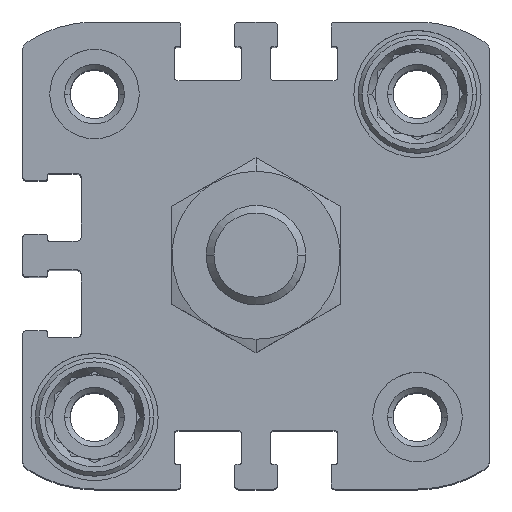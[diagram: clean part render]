
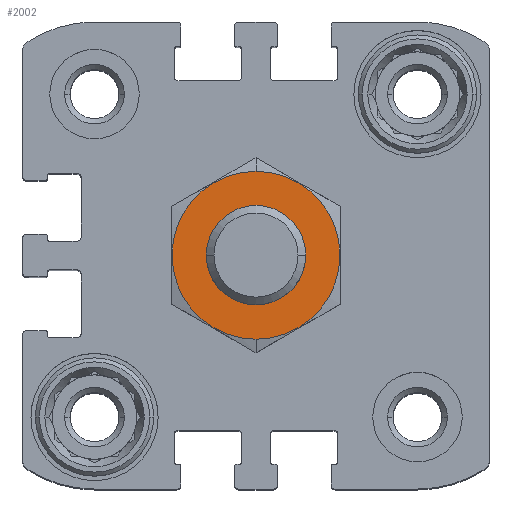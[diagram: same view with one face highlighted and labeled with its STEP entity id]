
A CAD part, top view. The second image highlights one B-rep face of the part: STEP entity #2002.
In plain terms, the highlighted planar face has unit normal (0, 0, 1).
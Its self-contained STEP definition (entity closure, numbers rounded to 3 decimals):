
#693 = AXIS2_PLACEMENT_3D ( 'NONE', #10803, #1397, #9158 ) ;
#869 = CARTESIAN_POINT ( 'NONE',  ( 0., 5., 15.75 ) ) ;
#1397 = DIRECTION ( 'NONE',  ( 0., 0., -1. ) ) ;
#1454 = EDGE_CURVE ( 'NONE', #9110, #5083, #13893, .T. ) ;
#1488 = EDGE_LOOP ( 'NONE', ( #15945, #6079 ) ) ;
#1782 = AXIS2_PLACEMENT_3D ( 'NONE', #15311, #12514, #5927 ) ;
#2002 = ADVANCED_FACE ( 'NONE', ( #13133, #2589 ), #9439, .F. ) ;
#2230 = EDGE_LOOP ( 'NONE', ( #15190, #7640 ) ) ;
#2589 = FACE_BOUND ( 'NONE', #2230, .T. ) ;
#2669 = DIRECTION ( 'NONE',  ( 0., 0., -1. ) ) ;
#2841 = CARTESIAN_POINT ( 'NONE',  ( 0., 8.45, 15.75 ) ) ;
#3805 = CARTESIAN_POINT ( 'NONE',  ( 0., -5., 15.75 ) ) ;
#3808 = CARTESIAN_POINT ( 'NONE',  ( 0., 0., 15.75 ) ) ;
#4215 = CARTESIAN_POINT ( 'NONE',  ( 0., 0., 15.75 ) ) ;
#5083 = VERTEX_POINT ( 'NONE', #3805 ) ;
#5927 = DIRECTION ( 'NONE',  ( 0., 1., 0. ) ) ;
#6079 = ORIENTED_EDGE ( 'NONE', *, *, #12133, .F. ) ;
#6380 = VERTEX_POINT ( 'NONE', #2841 ) ;
#6682 = CIRCLE ( 'NONE', #7249, 5. ) ;
#6746 = EDGE_CURVE ( 'NONE', #5083, #9110, #6682, .T. ) ;
#7249 = AXIS2_PLACEMENT_3D ( 'NONE', #3808, #7679, #10482 ) ;
#7640 = ORIENTED_EDGE ( 'NONE', *, *, #1454, .T. ) ;
#7679 = DIRECTION ( 'NONE',  ( 0., 0., -1. ) ) ;
#8561 = CIRCLE ( 'NONE', #693, 8.45 ) ;
#9110 = VERTEX_POINT ( 'NONE', #869 ) ;
#9158 = DIRECTION ( 'NONE',  ( 0., 1., 0. ) ) ;
#9439 = PLANE ( 'NONE',  #14255 ) ;
#9755 = DIRECTION ( 'NONE',  ( 0., 1., 0. ) ) ;
#10482 = DIRECTION ( 'NONE',  ( 0., 1., 0. ) ) ;
#10803 = CARTESIAN_POINT ( 'NONE',  ( 0., 0., 15.75 ) ) ;
#11404 = AXIS2_PLACEMENT_3D ( 'NONE', #4215, #13794, #9755 ) ;
#12133 = EDGE_CURVE ( 'NONE', #14794, #6380, #16928, .T. ) ;
#12514 = DIRECTION ( 'NONE',  ( 0., 0., -1. ) ) ;
#13133 = FACE_OUTER_BOUND ( 'NONE', #1488, .T. ) ;
#13560 = CARTESIAN_POINT ( 'NONE',  ( 0., -8.45, 15.75 ) ) ;
#13794 = DIRECTION ( 'NONE',  ( 0., 0., -1. ) ) ;
#13893 = CIRCLE ( 'NONE', #11404, 5. ) ;
#14255 = AXIS2_PLACEMENT_3D ( 'NONE', #14705, #2669, #17246 ) ;
#14705 = CARTESIAN_POINT ( 'NONE',  ( 0., 0., 15.75 ) ) ;
#14794 = VERTEX_POINT ( 'NONE', #13560 ) ;
#15190 = ORIENTED_EDGE ( 'NONE', *, *, #6746, .T. ) ;
#15311 = CARTESIAN_POINT ( 'NONE',  ( 0., 0., 15.75 ) ) ;
#15945 = ORIENTED_EDGE ( 'NONE', *, *, #16706, .F. ) ;
#16706 = EDGE_CURVE ( 'NONE', #6380, #14794, #8561, .T. ) ;
#16928 = CIRCLE ( 'NONE', #1782, 8.45 ) ;
#17246 = DIRECTION ( 'NONE',  ( 0., 1., 0. ) ) ;
